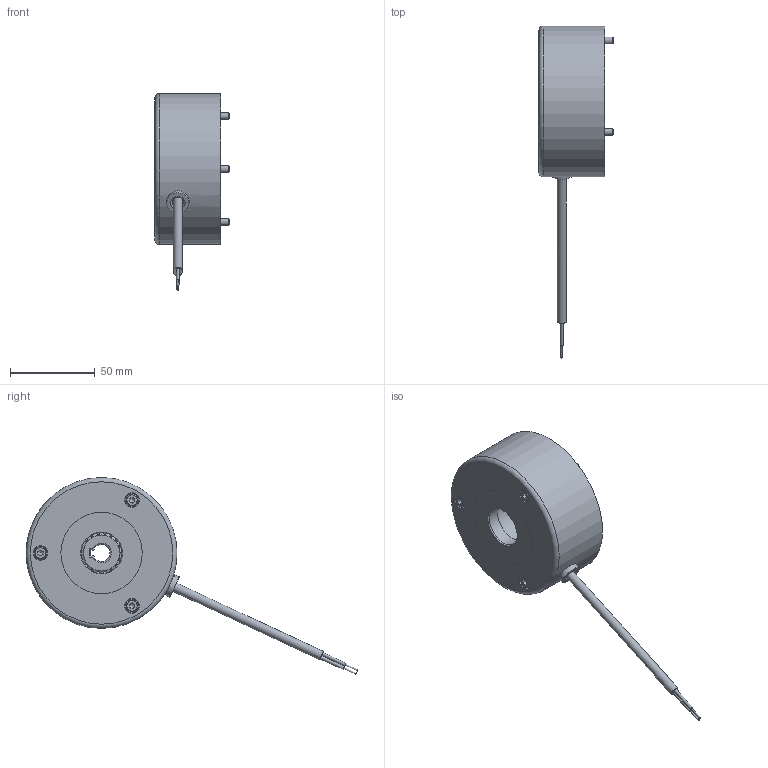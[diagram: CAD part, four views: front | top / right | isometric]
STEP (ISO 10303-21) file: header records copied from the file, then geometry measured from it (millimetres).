
FILE_DESCRIPTION(/* description */ (''),/* implementation_level */ '2;1');
FILE_NAME(/* name */ 'C:\SapWorkDir\Inventor\IP1\ConvertTempPath\5028603_IPT_000.ipt.stp',/* time_stamp */ '2020-09-10T10:52:47+02:00',/* author */ ('STRATE'),/* organization */ (''),/* preprocessor_version */ 'ST-DEVELOPER v17',/* originating_system */ 'Autodesk Inventor 2018',/* authorisation */ '');
FILE_SCHEMA (('AUTOMOTIVE_DESIGN { 1 0 10303 214 3 1 1 }'));
Length unit declared in the file: millimetre
Products named in the file (1): 5028603
Bounding box: 44.3 x 195.71 x 116.15 mm (x, y, z)
Volume: 208069.8 mm3; surface area: 54380.6 mm2
Topology: 3 solids, 3 shells, 316 faces, 846 edges, 576 vertices
Faces by surface type: cylinder 189, plane 83, cone 28, torus 16
Full cylindrical faces by diameter (mm): 1 x2, 1.85 x2, 3 x1, 4 x3, 5 x2, 5.25 x2, 5.3 x1, 5.5 x2, 6.4 x3, 6.6 x1, 7 x5, 7.4 x2, 7.9 x3, 8.5 x2, 8.6 x3, 13.2 x1, 24 x1, 29 x1, 30.8 x1, 31 x1, 39.5 x2, 40 x2, 48 x1, 60 x1, 80 x1, 81 x1, 87 x1, 89 x1
Entity records: 11118 total; most frequent: CARTESIAN_POINT 2653, ORIENTED_EDGE 1688, DIRECTION 1687, EDGE_CURVE 844, AXIS2_PLACEMENT_3D 702, VERTEX_POINT 576, EDGE_LOOP 386, CIRCLE 385
